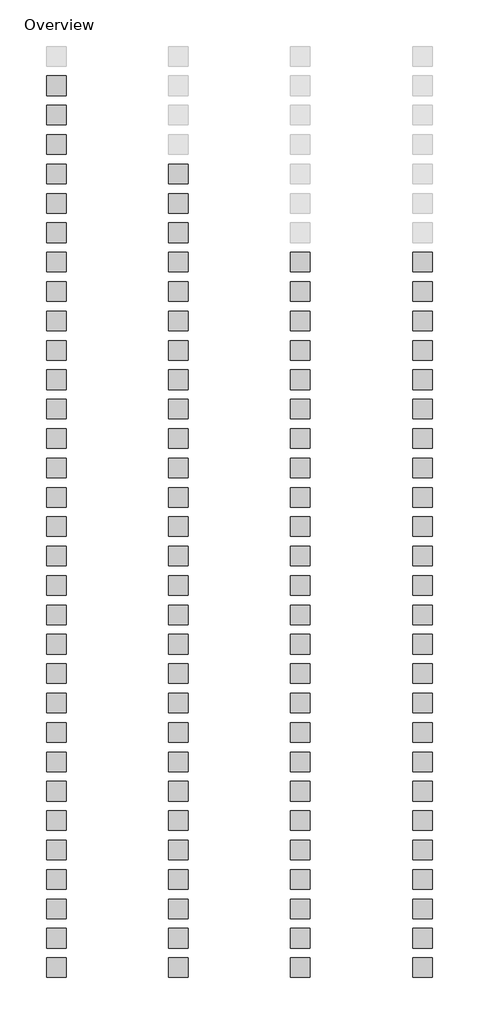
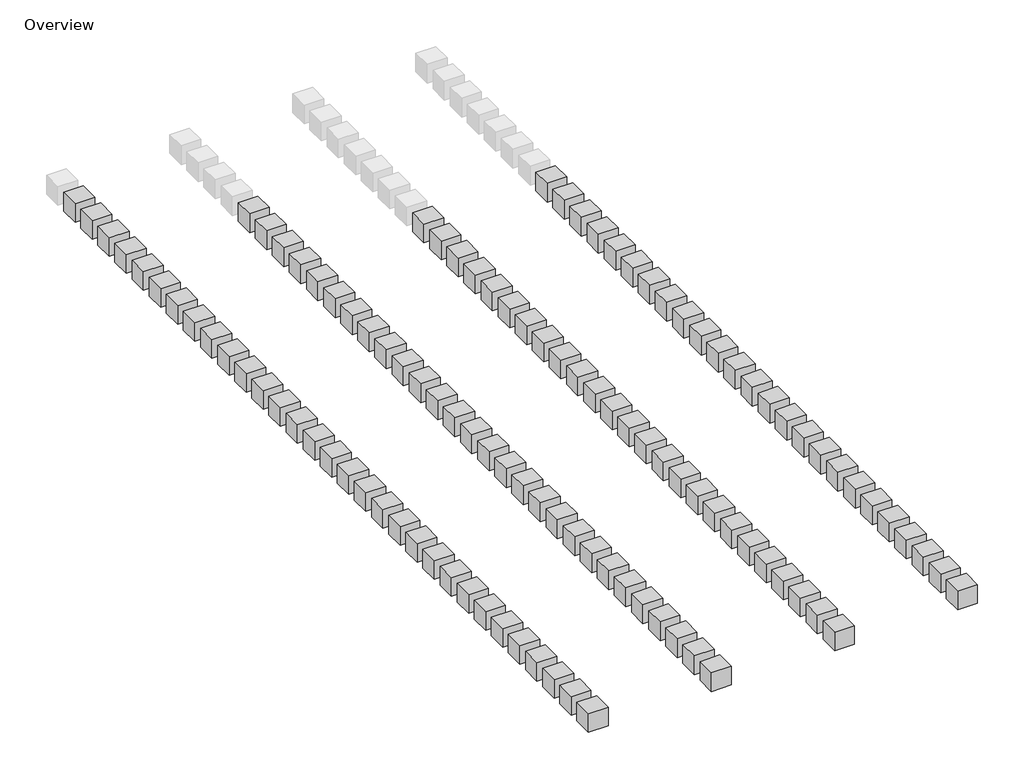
# One storey, part 1 of 5: 109 proxies.
"""IFC4 building model written with IfcOpenShell, lengths in millimetres."""

from ifc_helpers import new_model, si_unit, origin, place, context, project, spatial, transform, mapped, element, save
from components import material_box_material_box_61bd0c43

model = new_model("IFC4")

# Units and contexts
model_context = context("Model", 3, world=origin())
ifc_project = project(units=[si_unit("LENGTHUNIT", "METRE", prefix="MILLI")], contexts=[model_context])

# Site, building, storey
site = spatial("IfcSite", under=ifc_project)
building = spatial("IfcBuilding", under=site)
storey = spatial("IfcBuildingStorey", under=building, Name="Overview", Elevation=0.0)

# Proxies
placement = place(None, origin())
material_box_material_box_shape = material_box_material_box_61bd0c43(model_context)
element("IfcBuildingElementProxy", 1, Name="Material Box : Material Box", ObjectType="Material Box : Material Box", at=placement, inside=storey, context=model_context, shape_type="MappedRepresentation", body=[
    mapped(material_box_material_box_shape, transform((-14601.1030029, -41343.0736223, 0.0), x_axis=(1.0, 0.0, 0.0), y_axis=(0.0, 1.0, 0.0), z_axis=(0.0, 0.0, 1.0))),
])
element("IfcBuildingElementProxy", 2, Name="Material Box : Material Box", ObjectType="Material Box : Material Box", at=placement, inside=storey, context=model_context, shape_type="MappedRepresentation", body=[
    mapped(material_box_material_box_shape, transform((-14601.1030029, -42486.0736223, 0.0), x_axis=(1.0, 0.0, 0.0), y_axis=(0.0, 1.0, 0.0), z_axis=(0.0, 0.0, 1.0))),
])
element("IfcBuildingElementProxy", 3, Name="Material Box : Material Box", ObjectType="Material Box : Material Box", at=placement, inside=storey, context=model_context, shape_type="MappedRepresentation", body=[
    mapped(material_box_material_box_shape, transform((-14601.1030029, -43629.0736223, 0.0), x_axis=(1.0, 0.0, 0.0), y_axis=(0.0, 1.0, 0.0), z_axis=(0.0, 0.0, 1.0))),
])
element("IfcBuildingElementProxy", 4, Name="Material Box : Material Box", ObjectType="Material Box : Material Box", at=placement, inside=storey, context=model_context, shape_type="MappedRepresentation", body=[
    mapped(material_box_material_box_shape, transform((-14601.1030029, -44772.0736223, 0.0), x_axis=(1.0, 0.0, 0.0), y_axis=(0.0, 1.0, 0.0), z_axis=(0.0, 0.0, 1.0))),
])
element("IfcBuildingElementProxy", 5, Name="Material Box : Material Box", ObjectType="Material Box : Material Box", at=placement, inside=storey, context=model_context, shape_type="MappedRepresentation", body=[
    mapped(material_box_material_box_shape, transform((-9851.3030029, -44772.0736223, 0.0), x_axis=(1.0, 0.0, 0.0), y_axis=(0.0, 1.0, 0.0), z_axis=(0.0, 0.0, 1.0))),
])
element("IfcBuildingElementProxy", 6, Name="Material Box : Material Box", ObjectType="Material Box : Material Box", at=placement, inside=storey, context=model_context, shape_type="MappedRepresentation", body=[
    mapped(material_box_material_box_shape, transform((-14601.1030029, -45915.0736223, 0.0), x_axis=(1.0, 0.0, 0.0), y_axis=(0.0, 1.0, 0.0), z_axis=(0.0, 0.0, 1.0))),
])
element("IfcBuildingElementProxy", 7, Name="Material Box : Material Box", ObjectType="Material Box : Material Box", at=placement, inside=storey, context=model_context, shape_type="MappedRepresentation", body=[
    mapped(material_box_material_box_shape, transform((-9851.3030029, -45915.0736223, 0.0), x_axis=(1.0, 0.0, 0.0), y_axis=(0.0, 1.0, 0.0), z_axis=(0.0, 0.0, 1.0))),
])
element("IfcBuildingElementProxy", 8, Name="Material Box : Material Box", ObjectType="Material Box : Material Box", at=placement, inside=storey, context=model_context, shape_type="MappedRepresentation", body=[
    mapped(material_box_material_box_shape, transform((-14601.1030029, -47058.0736223, 0.0), x_axis=(1.0, 0.0, 0.0), y_axis=(0.0, 1.0, 0.0), z_axis=(0.0, 0.0, 1.0))),
])
element("IfcBuildingElementProxy", 9, Name="Material Box : Material Box", ObjectType="Material Box : Material Box", at=placement, inside=storey, context=model_context, shape_type="MappedRepresentation", body=[
    mapped(material_box_material_box_shape, transform((-9851.3030029, -47058.0736223, 0.0), x_axis=(1.0, 0.0, 0.0), y_axis=(0.0, 1.0, 0.0), z_axis=(0.0, 0.0, 1.0))),
])
element("IfcBuildingElementProxy", 10, Name="Material Box : Material Box", ObjectType="Material Box : Material Box", at=placement, inside=storey, context=model_context, shape_type="MappedRepresentation", body=[
    mapped(material_box_material_box_shape, transform((-14601.1030029, -48201.0736223, 0.0), x_axis=(1.0, 0.0, 0.0), y_axis=(0.0, 1.0, 0.0), z_axis=(0.0, 0.0, 1.0))),
])
element("IfcBuildingElementProxy", 11, Name="Material Box : Material Box", ObjectType="Material Box : Material Box", at=placement, inside=storey, context=model_context, shape_type="MappedRepresentation", body=[
    mapped(material_box_material_box_shape, transform((-9851.3030029, -48201.0736223, 0.0), x_axis=(1.0, 0.0, 0.0), y_axis=(0.0, 1.0, 0.0), z_axis=(0.0, 0.0, 1.0))),
])
element("IfcBuildingElementProxy", 12, Name="Material Box : Material Box", ObjectType="Material Box : Material Box", at=placement, inside=storey, context=model_context, shape_type="MappedRepresentation", body=[
    mapped(material_box_material_box_shape, transform((-14601.1030029, -49344.0736223, 0.0), x_axis=(1.0, 0.0, 0.0), y_axis=(0.0, 1.0, 0.0), z_axis=(0.0, 0.0, 1.0))),
])
element("IfcBuildingElementProxy", 13, Name="Material Box : Material Box", ObjectType="Material Box : Material Box", at=placement, inside=storey, context=model_context, shape_type="MappedRepresentation", body=[
    mapped(material_box_material_box_shape, transform((-9851.3030029, -49344.0736223, 0.0), x_axis=(1.0, 0.0, 0.0), y_axis=(0.0, 1.0, 0.0), z_axis=(0.0, 0.0, 1.0))),
])
element("IfcBuildingElementProxy", 14, Name="Material Box : Material Box", ObjectType="Material Box : Material Box", at=placement, inside=storey, context=model_context, shape_type="MappedRepresentation", body=[
    mapped(material_box_material_box_shape, transform((-14601.1030029, -50487.0736223, 0.0), x_axis=(1.0, 0.0, 0.0), y_axis=(0.0, 1.0, 0.0), z_axis=(0.0, 0.0, 1.0))),
])
element("IfcBuildingElementProxy", 15, Name="Material Box : Material Box", ObjectType="Material Box : Material Box", at=placement, inside=storey, context=model_context, shape_type="MappedRepresentation", body=[
    mapped(material_box_material_box_shape, transform((-9851.3030029, -50487.0736223, 0.0), x_axis=(1.0, 0.0, 0.0), y_axis=(0.0, 1.0, 0.0), z_axis=(0.0, 0.0, 1.0))),
])
element("IfcBuildingElementProxy", 16, Name="Material Box : Material Box", ObjectType="Material Box : Material Box", at=placement, inside=storey, context=model_context, shape_type="MappedRepresentation", body=[
    mapped(material_box_material_box_shape, transform((-14601.1030029, -51630.0736223, 0.0), x_axis=(1.0, 0.0, 0.0), y_axis=(0.0, 1.0, 0.0), z_axis=(0.0, 0.0, 1.0))),
])
element("IfcBuildingElementProxy", 17, Name="Material Box : Material Box", ObjectType="Material Box : Material Box", at=placement, inside=storey, context=model_context, shape_type="MappedRepresentation", body=[
    mapped(material_box_material_box_shape, transform((-9851.3030029, -51630.0736223, 0.0), x_axis=(1.0, 0.0, 0.0), y_axis=(0.0, 1.0, 0.0), z_axis=(0.0, 0.0, 1.0))),
])
element("IfcBuildingElementProxy", 18, Name="Material Box : Material Box", ObjectType="Material Box : Material Box", at=placement, inside=storey, context=model_context, shape_type="MappedRepresentation", body=[
    mapped(material_box_material_box_shape, transform((-14601.1030029, -52773.0736223, 0.0), x_axis=(1.0, 0.0, 0.0), y_axis=(0.0, 1.0, 0.0), z_axis=(0.0, 0.0, 1.0))),
])
element("IfcBuildingElementProxy", 19, Name="Material Box : Material Box", ObjectType="Material Box : Material Box", at=placement, inside=storey, context=model_context, shape_type="MappedRepresentation", body=[
    mapped(material_box_material_box_shape, transform((-9851.3030029, -52773.0736223, 0.0), x_axis=(1.0, 0.0, 0.0), y_axis=(0.0, 1.0, 0.0), z_axis=(0.0, 0.0, 1.0))),
])
element("IfcBuildingElementProxy", 20, Name="Material Box : Material Box", ObjectType="Material Box : Material Box", at=placement, inside=storey, context=model_context, shape_type="MappedRepresentation", body=[
    mapped(material_box_material_box_shape, transform((-14601.1030029, -53916.0736223, 0.0), x_axis=(1.0, 0.0, 0.0), y_axis=(0.0, 1.0, 0.0), z_axis=(0.0, 0.0, 1.0))),
])
element("IfcBuildingElementProxy", 21, Name="Material Box : Material Box", ObjectType="Material Box : Material Box", at=placement, inside=storey, context=model_context, shape_type="MappedRepresentation", body=[
    mapped(material_box_material_box_shape, transform((-9851.3030029, -53916.0736223, 0.0), x_axis=(1.0, 0.0, 0.0), y_axis=(0.0, 1.0, 0.0), z_axis=(0.0, 0.0, 1.0))),
])
element("IfcBuildingElementProxy", 22, Name="Material Box : Material Box", ObjectType="Material Box : Material Box", at=placement, inside=storey, context=model_context, shape_type="MappedRepresentation", body=[
    mapped(material_box_material_box_shape, transform((-14601.1030029, -55059.0736223, 0.0), x_axis=(1.0, 0.0, 0.0), y_axis=(0.0, 1.0, 0.0), z_axis=(0.0, 0.0, 1.0))),
])
element("IfcBuildingElementProxy", 23, Name="Material Box : Material Box", ObjectType="Material Box : Material Box", at=placement, inside=storey, context=model_context, shape_type="MappedRepresentation", body=[
    mapped(material_box_material_box_shape, transform((-9851.3030029, -55059.0736223, 0.0), x_axis=(1.0, 0.0, 0.0), y_axis=(0.0, 1.0, 0.0), z_axis=(0.0, 0.0, 1.0))),
])
element("IfcBuildingElementProxy", 24, Name="Material Box : Material Box", ObjectType="Material Box : Material Box", at=placement, inside=storey, context=model_context, shape_type="MappedRepresentation", body=[
    mapped(material_box_material_box_shape, transform((-14601.1030029, -56202.0736223, 0.0), x_axis=(1.0, 0.0, 0.0), y_axis=(0.0, 1.0, 0.0), z_axis=(0.0, 0.0, 1.0))),
])
element("IfcBuildingElementProxy", 25, Name="Material Box : Material Box", ObjectType="Material Box : Material Box", at=placement, inside=storey, context=model_context, shape_type="MappedRepresentation", body=[
    mapped(material_box_material_box_shape, transform((-9851.3030029, -56202.0736223, 0.0), x_axis=(1.0, 0.0, 0.0), y_axis=(0.0, 1.0, 0.0), z_axis=(0.0, 0.0, 1.0))),
])
element("IfcBuildingElementProxy", 26, Name="Material Box : Material Box", ObjectType="Material Box : Material Box", at=placement, inside=storey, context=model_context, shape_type="MappedRepresentation", body=[
    mapped(material_box_material_box_shape, transform((-14601.1030029, -57345.0736223, 0.0), x_axis=(1.0, 0.0, 0.0), y_axis=(0.0, 1.0, 0.0), z_axis=(0.0, 0.0, 1.0))),
])
element("IfcBuildingElementProxy", 27, Name="Material Box : Material Box", ObjectType="Material Box : Material Box", at=placement, inside=storey, context=model_context, shape_type="MappedRepresentation", body=[
    mapped(material_box_material_box_shape, transform((-9851.3030029, -57345.0736223, 0.0), x_axis=(1.0, 0.0, 0.0), y_axis=(0.0, 1.0, 0.0), z_axis=(0.0, 0.0, 1.0))),
])
element("IfcBuildingElementProxy", 28, Name="Material Box : Material Box", ObjectType="Material Box : Material Box", at=placement, inside=storey, context=model_context, shape_type="MappedRepresentation", body=[
    mapped(material_box_material_box_shape, transform((-5101.5030029, -48201.0736223, 0.0), x_axis=(1.0, 0.0, 0.0), y_axis=(0.0, 1.0, 0.0), z_axis=(0.0, 0.0, 1.0))),
])
element("IfcBuildingElementProxy", 29, Name="Material Box : Material Box", ObjectType="Material Box : Material Box", at=placement, inside=storey, context=model_context, shape_type="MappedRepresentation", body=[
    mapped(material_box_material_box_shape, transform((-351.7030029, -48201.0736223, 0.0), x_axis=(1.0, 0.0, 0.0), y_axis=(0.0, 1.0, 0.0), z_axis=(0.0, 0.0, 1.0))),
])
element("IfcBuildingElementProxy", 30, Name="Material Box : Material Box", ObjectType="Material Box : Material Box", at=placement, inside=storey, context=model_context, shape_type="MappedRepresentation", body=[
    mapped(material_box_material_box_shape, transform((-5101.5030029, -49344.0736223, 0.0), x_axis=(1.0, 0.0, 0.0), y_axis=(0.0, 1.0, 0.0), z_axis=(0.0, 0.0, 1.0))),
])
element("IfcBuildingElementProxy", 31, Name="Material Box : Material Box", ObjectType="Material Box : Material Box", at=placement, inside=storey, context=model_context, shape_type="MappedRepresentation", body=[
    mapped(material_box_material_box_shape, transform((-351.7030029, -49344.0736223, 0.0), x_axis=(1.0, 0.0, 0.0), y_axis=(0.0, 1.0, 0.0), z_axis=(0.0, 0.0, 1.0))),
])
element("IfcBuildingElementProxy", 32, Name="Material Box : Material Box", ObjectType="Material Box : Material Box", at=placement, inside=storey, context=model_context, shape_type="MappedRepresentation", body=[
    mapped(material_box_material_box_shape, transform((-5101.5030029, -50487.0736223, 0.0), x_axis=(1.0, 0.0, 0.0), y_axis=(0.0, 1.0, 0.0), z_axis=(0.0, 0.0, 1.0))),
])
element("IfcBuildingElementProxy", 33, Name="Material Box : Material Box", ObjectType="Material Box : Material Box", at=placement, inside=storey, context=model_context, shape_type="MappedRepresentation", body=[
    mapped(material_box_material_box_shape, transform((-351.7030029, -50487.0736223, 0.0), x_axis=(1.0, 0.0, 0.0), y_axis=(0.0, 1.0, 0.0), z_axis=(0.0, 0.0, 1.0))),
])
element("IfcBuildingElementProxy", 34, Name="Material Box : Material Box", ObjectType="Material Box : Material Box", at=placement, inside=storey, context=model_context, shape_type="MappedRepresentation", body=[
    mapped(material_box_material_box_shape, transform((-5101.5030029, -51630.0736223, 0.0), x_axis=(1.0, 0.0, 0.0), y_axis=(0.0, 1.0, 0.0), z_axis=(0.0, 0.0, 1.0))),
])
element("IfcBuildingElementProxy", 35, Name="Material Box : Material Box", ObjectType="Material Box : Material Box", at=placement, inside=storey, context=model_context, shape_type="MappedRepresentation", body=[
    mapped(material_box_material_box_shape, transform((-351.7030029, -51630.0736223, 0.0), x_axis=(1.0, 0.0, 0.0), y_axis=(0.0, 1.0, 0.0), z_axis=(0.0, 0.0, 1.0))),
])
element("IfcBuildingElementProxy", 36, Name="Material Box : Material Box", ObjectType="Material Box : Material Box", at=placement, inside=storey, context=model_context, shape_type="MappedRepresentation", body=[
    mapped(material_box_material_box_shape, transform((-5101.5030029, -52773.0736223, 0.0), x_axis=(1.0, 0.0, 0.0), y_axis=(0.0, 1.0, 0.0), z_axis=(0.0, 0.0, 1.0))),
])
element("IfcBuildingElementProxy", 37, Name="Material Box : Material Box", ObjectType="Material Box : Material Box", at=placement, inside=storey, context=model_context, shape_type="MappedRepresentation", body=[
    mapped(material_box_material_box_shape, transform((-351.7030029, -52773.0736223, 0.0), x_axis=(1.0, 0.0, 0.0), y_axis=(0.0, 1.0, 0.0), z_axis=(0.0, 0.0, 1.0))),
])
element("IfcBuildingElementProxy", 38, Name="Material Box : Material Box", ObjectType="Material Box : Material Box", at=placement, inside=storey, context=model_context, shape_type="MappedRepresentation", body=[
    mapped(material_box_material_box_shape, transform((-5101.5030029, -53916.0736223, 0.0), x_axis=(1.0, 0.0, 0.0), y_axis=(0.0, 1.0, 0.0), z_axis=(0.0, 0.0, 1.0))),
])
element("IfcBuildingElementProxy", 39, Name="Material Box : Material Box", ObjectType="Material Box : Material Box", at=placement, inside=storey, context=model_context, shape_type="MappedRepresentation", body=[
    mapped(material_box_material_box_shape, transform((-351.7030029, -53916.0736223, 0.0), x_axis=(1.0, 0.0, 0.0), y_axis=(0.0, 1.0, 0.0), z_axis=(0.0, 0.0, 1.0))),
])
element("IfcBuildingElementProxy", 40, Name="Material Box : Material Box", ObjectType="Material Box : Material Box", at=placement, inside=storey, context=model_context, shape_type="MappedRepresentation", body=[
    mapped(material_box_material_box_shape, transform((-5101.5030029, -55059.0736223, 0.0), x_axis=(1.0, 0.0, 0.0), y_axis=(0.0, 1.0, 0.0), z_axis=(0.0, 0.0, 1.0))),
])
element("IfcBuildingElementProxy", 41, Name="Material Box : Material Box", ObjectType="Material Box : Material Box", at=placement, inside=storey, context=model_context, shape_type="MappedRepresentation", body=[
    mapped(material_box_material_box_shape, transform((-351.7030029, -55059.0736223, 0.0), x_axis=(1.0, 0.0, 0.0), y_axis=(0.0, 1.0, 0.0), z_axis=(0.0, 0.0, 1.0))),
])
element("IfcBuildingElementProxy", 42, Name="Material Box : Material Box", ObjectType="Material Box : Material Box", at=placement, inside=storey, context=model_context, shape_type="MappedRepresentation", body=[
    mapped(material_box_material_box_shape, transform((-5101.5030029, -56202.0736223, 0.0), x_axis=(1.0, 0.0, 0.0), y_axis=(0.0, 1.0, 0.0), z_axis=(0.0, 0.0, 1.0))),
])
element("IfcBuildingElementProxy", 43, Name="Material Box : Material Box", ObjectType="Material Box : Material Box", at=placement, inside=storey, context=model_context, shape_type="MappedRepresentation", body=[
    mapped(material_box_material_box_shape, transform((-351.7030029, -56202.0736223, 0.0), x_axis=(1.0, 0.0, 0.0), y_axis=(0.0, 1.0, 0.0), z_axis=(0.0, 0.0, 1.0))),
])
element("IfcBuildingElementProxy", 44, Name="Material Box : Material Box", ObjectType="Material Box : Material Box", at=placement, inside=storey, context=model_context, shape_type="MappedRepresentation", body=[
    mapped(material_box_material_box_shape, transform((-5101.5030029, -57345.0736223, 0.0), x_axis=(1.0, 0.0, 0.0), y_axis=(0.0, 1.0, 0.0), z_axis=(0.0, 0.0, 1.0))),
])
element("IfcBuildingElementProxy", 45, Name="Material Box : Material Box", ObjectType="Material Box : Material Box", at=placement, inside=storey, context=model_context, shape_type="MappedRepresentation", body=[
    mapped(material_box_material_box_shape, transform((-351.7030029, -57345.0736223, 0.0), x_axis=(1.0, 0.0, 0.0), y_axis=(0.0, 1.0, 0.0), z_axis=(0.0, 0.0, 1.0))),
])
element("IfcBuildingElementProxy", 46, Name="Material Box : Material Box", ObjectType="Material Box : Material Box", at=placement, inside=storey, context=model_context, shape_type="MappedRepresentation", body=[
    mapped(material_box_material_box_shape, transform((-14601.1030029, -58488.0736223, 0.0), x_axis=(1.0, 0.0, 0.0), y_axis=(0.0, 1.0, 0.0), z_axis=(0.0, 0.0, 1.0))),
])
element("IfcBuildingElementProxy", 47, Name="Material Box : Material Box", ObjectType="Material Box : Material Box", at=placement, inside=storey, context=model_context, shape_type="MappedRepresentation", body=[
    mapped(material_box_material_box_shape, transform((-14601.1030029, -59631.0736223, 0.0), x_axis=(1.0, 0.0, 0.0), y_axis=(0.0, 1.0, 0.0), z_axis=(0.0, 0.0, 1.0))),
])
element("IfcBuildingElementProxy", 48, Name="Material Box : Material Box", ObjectType="Material Box : Material Box", at=placement, inside=storey, context=model_context, shape_type="MappedRepresentation", body=[
    mapped(material_box_material_box_shape, transform((-14601.1030029, -60774.0736223, 0.0), x_axis=(1.0, 0.0, 0.0), y_axis=(0.0, 1.0, 0.0), z_axis=(0.0, 0.0, 1.0))),
])
element("IfcBuildingElementProxy", 49, Name="Material Box : Material Box", ObjectType="Material Box : Material Box", at=placement, inside=storey, context=model_context, shape_type="MappedRepresentation", body=[
    mapped(material_box_material_box_shape, transform((-14601.1030029, -61917.0736223, 0.0), x_axis=(1.0, 0.0, 0.0), y_axis=(0.0, 1.0, 0.0), z_axis=(0.0, 0.0, 1.0))),
])
element("IfcBuildingElementProxy", 50, Name="Material Box : Material Box", ObjectType="Material Box : Material Box", at=placement, inside=storey, context=model_context, shape_type="MappedRepresentation", body=[
    mapped(material_box_material_box_shape, transform((-14601.1030029, -63060.0736223, 0.0), x_axis=(1.0, 0.0, 0.0), y_axis=(0.0, 1.0, 0.0), z_axis=(0.0, 0.0, 1.0))),
])
element("IfcBuildingElementProxy", 51, Name="Material Box : Material Box", ObjectType="Material Box : Material Box", at=placement, inside=storey, context=model_context, shape_type="MappedRepresentation", body=[
    mapped(material_box_material_box_shape, transform((-14601.1030029, -64203.0736223, 0.0), x_axis=(1.0, 0.0, 0.0), y_axis=(0.0, 1.0, 0.0), z_axis=(0.0, 0.0, 1.0))),
])
element("IfcBuildingElementProxy", 52, Name="Material Box : Material Box", ObjectType="Material Box : Material Box", at=placement, inside=storey, context=model_context, shape_type="MappedRepresentation", body=[
    mapped(material_box_material_box_shape, transform((-14601.1030029, -65346.0736223, 0.0), x_axis=(1.0, 0.0, 0.0), y_axis=(0.0, 1.0, 0.0), z_axis=(0.0, 0.0, 1.0))),
])
element("IfcBuildingElementProxy", 53, Name="Material Box : Material Box", ObjectType="Material Box : Material Box", at=placement, inside=storey, context=model_context, shape_type="MappedRepresentation", body=[
    mapped(material_box_material_box_shape, transform((-14601.1030029, -66489.0736223, 0.0), x_axis=(1.0, 0.0, 0.0), y_axis=(0.0, 1.0, 0.0), z_axis=(0.0, 0.0, 1.0))),
])
element("IfcBuildingElementProxy", 54, Name="Material Box : Material Box", ObjectType="Material Box : Material Box", at=placement, inside=storey, context=model_context, shape_type="MappedRepresentation", body=[
    mapped(material_box_material_box_shape, transform((-14601.1030029, -67632.0736223, 0.0), x_axis=(1.0, 0.0, 0.0), y_axis=(0.0, 1.0, 0.0), z_axis=(0.0, 0.0, 1.0))),
])
element("IfcBuildingElementProxy", 55, Name="Material Box : Material Box", ObjectType="Material Box : Material Box", at=placement, inside=storey, context=model_context, shape_type="MappedRepresentation", body=[
    mapped(material_box_material_box_shape, transform((-14601.1030029, -68775.0736223, 0.0), x_axis=(1.0, 0.0, 0.0), y_axis=(0.0, 1.0, 0.0), z_axis=(0.0, 0.0, 1.0))),
])
element("IfcBuildingElementProxy", 56, Name="Material Box : Material Box", ObjectType="Material Box : Material Box", at=placement, inside=storey, context=model_context, shape_type="MappedRepresentation", body=[
    mapped(material_box_material_box_shape, transform((-14601.1030029, -69918.0736223, 0.0), x_axis=(1.0, 0.0, 0.0), y_axis=(0.0, 1.0, 0.0), z_axis=(0.0, 0.0, 1.0))),
])
element("IfcBuildingElementProxy", 57, Name="Material Box : Material Box", ObjectType="Material Box : Material Box", at=placement, inside=storey, context=model_context, shape_type="MappedRepresentation", body=[
    mapped(material_box_material_box_shape, transform((-14601.1030029, -71061.0736223, 0.0), x_axis=(1.0, 0.0, 0.0), y_axis=(0.0, 1.0, 0.0), z_axis=(0.0, 0.0, 1.0))),
])
element("IfcBuildingElementProxy", 58, Name="Material Box : Material Box", ObjectType="Material Box : Material Box", at=placement, inside=storey, context=model_context, shape_type="MappedRepresentation", body=[
    mapped(material_box_material_box_shape, transform((-14601.1030029, -72204.0736223, 0.0), x_axis=(1.0, 0.0, 0.0), y_axis=(0.0, 1.0, 0.0), z_axis=(0.0, 0.0, 1.0))),
])
element("IfcBuildingElementProxy", 59, Name="Material Box : Material Box", ObjectType="Material Box : Material Box", at=placement, inside=storey, context=model_context, shape_type="MappedRepresentation", body=[
    mapped(material_box_material_box_shape, transform((-14601.1030029, -73347.0736223, 0.0), x_axis=(1.0, 0.0, 0.0), y_axis=(0.0, 1.0, 0.0), z_axis=(0.0, 0.0, 1.0))),
])
element("IfcBuildingElementProxy", 60, Name="Material Box : Material Box", ObjectType="Material Box : Material Box", at=placement, inside=storey, context=model_context, shape_type="MappedRepresentation", body=[
    mapped(material_box_material_box_shape, transform((-14601.1030029, -74490.0736223, 0.0), x_axis=(1.0, 0.0, 0.0), y_axis=(0.0, 1.0, 0.0), z_axis=(0.0, 0.0, 1.0))),
])
element("IfcBuildingElementProxy", 61, Name="Material Box : Material Box", ObjectType="Material Box : Material Box", at=placement, inside=storey, context=model_context, shape_type="MappedRepresentation", body=[
    mapped(material_box_material_box_shape, transform((-14601.1030029, -75633.0736223, 0.0), x_axis=(1.0, 0.0, 0.0), y_axis=(0.0, 1.0, 0.0), z_axis=(0.0, 0.0, 1.0))),
])
element("IfcBuildingElementProxy", 62, Name="Material Box : Material Box", ObjectType="Material Box : Material Box", at=placement, inside=storey, context=model_context, shape_type="MappedRepresentation", body=[
    mapped(material_box_material_box_shape, transform((-9851.3030029, -58488.0736223, 0.0), x_axis=(1.0, 0.0, 0.0), y_axis=(0.0, 1.0, 0.0), z_axis=(0.0, 0.0, 1.0))),
])
element("IfcBuildingElementProxy", 63, Name="Material Box : Material Box", ObjectType="Material Box : Material Box", at=placement, inside=storey, context=model_context, shape_type="MappedRepresentation", body=[
    mapped(material_box_material_box_shape, transform((-5101.5030029, -58488.0736223, 0.0), x_axis=(1.0, 0.0, 0.0), y_axis=(0.0, 1.0, 0.0), z_axis=(0.0, 0.0, 1.0))),
])
element("IfcBuildingElementProxy", 64, Name="Material Box : Material Box", ObjectType="Material Box : Material Box", at=placement, inside=storey, context=model_context, shape_type="MappedRepresentation", body=[
    mapped(material_box_material_box_shape, transform((-9851.3030029, -59631.0736223, 0.0), x_axis=(1.0, 0.0, 0.0), y_axis=(0.0, 1.0, 0.0), z_axis=(0.0, 0.0, 1.0))),
])
element("IfcBuildingElementProxy", 65, Name="Material Box : Material Box", ObjectType="Material Box : Material Box", at=placement, inside=storey, context=model_context, shape_type="MappedRepresentation", body=[
    mapped(material_box_material_box_shape, transform((-5101.5030029, -59631.0736223, 0.0), x_axis=(1.0, 0.0, 0.0), y_axis=(0.0, 1.0, 0.0), z_axis=(0.0, 0.0, 1.0))),
])
element("IfcBuildingElementProxy", 66, Name="Material Box : Material Box", ObjectType="Material Box : Material Box", at=placement, inside=storey, context=model_context, shape_type="MappedRepresentation", body=[
    mapped(material_box_material_box_shape, transform((-9851.3030029, -60774.0736223, 0.0), x_axis=(1.0, 0.0, 0.0), y_axis=(0.0, 1.0, 0.0), z_axis=(0.0, 0.0, 1.0))),
])
element("IfcBuildingElementProxy", 67, Name="Material Box : Material Box", ObjectType="Material Box : Material Box", at=placement, inside=storey, context=model_context, shape_type="MappedRepresentation", body=[
    mapped(material_box_material_box_shape, transform((-5101.5030029, -60774.0736223, 0.0), x_axis=(1.0, 0.0, 0.0), y_axis=(0.0, 1.0, 0.0), z_axis=(0.0, 0.0, 1.0))),
])
element("IfcBuildingElementProxy", 68, Name="Material Box : Material Box", ObjectType="Material Box : Material Box", at=placement, inside=storey, context=model_context, shape_type="MappedRepresentation", body=[
    mapped(material_box_material_box_shape, transform((-9851.3030029, -61917.0736223, 0.0), x_axis=(1.0, 0.0, 0.0), y_axis=(0.0, 1.0, 0.0), z_axis=(0.0, 0.0, 1.0))),
])
element("IfcBuildingElementProxy", 69, Name="Material Box : Material Box", ObjectType="Material Box : Material Box", at=placement, inside=storey, context=model_context, shape_type="MappedRepresentation", body=[
    mapped(material_box_material_box_shape, transform((-5101.5030029, -61917.0736223, 0.0), x_axis=(1.0, 0.0, 0.0), y_axis=(0.0, 1.0, 0.0), z_axis=(0.0, 0.0, 1.0))),
])
element("IfcBuildingElementProxy", 70, Name="Material Box : Material Box", ObjectType="Material Box : Material Box", at=placement, inside=storey, context=model_context, shape_type="MappedRepresentation", body=[
    mapped(material_box_material_box_shape, transform((-9851.3030029, -63060.0736223, 0.0), x_axis=(1.0, 0.0, 0.0), y_axis=(0.0, 1.0, 0.0), z_axis=(0.0, 0.0, 1.0))),
])
element("IfcBuildingElementProxy", 71, Name="Material Box : Material Box", ObjectType="Material Box : Material Box", at=placement, inside=storey, context=model_context, shape_type="MappedRepresentation", body=[
    mapped(material_box_material_box_shape, transform((-5101.5030029, -63060.0736223, 0.0), x_axis=(1.0, 0.0, 0.0), y_axis=(0.0, 1.0, 0.0), z_axis=(0.0, 0.0, 1.0))),
])
element("IfcBuildingElementProxy", 72, Name="Material Box : Material Box", ObjectType="Material Box : Material Box", at=placement, inside=storey, context=model_context, shape_type="MappedRepresentation", body=[
    mapped(material_box_material_box_shape, transform((-9851.3030029, -64203.0736223, 0.0), x_axis=(1.0, 0.0, 0.0), y_axis=(0.0, 1.0, 0.0), z_axis=(0.0, 0.0, 1.0))),
])
element("IfcBuildingElementProxy", 73, Name="Material Box : Material Box", ObjectType="Material Box : Material Box", at=placement, inside=storey, context=model_context, shape_type="MappedRepresentation", body=[
    mapped(material_box_material_box_shape, transform((-5101.5030029, -64203.0736223, 0.0), x_axis=(1.0, 0.0, 0.0), y_axis=(0.0, 1.0, 0.0), z_axis=(0.0, 0.0, 1.0))),
])
element("IfcBuildingElementProxy", 74, Name="Material Box : Material Box", ObjectType="Material Box : Material Box", at=placement, inside=storey, context=model_context, shape_type="MappedRepresentation", body=[
    mapped(material_box_material_box_shape, transform((-9851.3030029, -65346.0736223, 0.0), x_axis=(1.0, 0.0, 0.0), y_axis=(0.0, 1.0, 0.0), z_axis=(0.0, 0.0, 1.0))),
])
element("IfcBuildingElementProxy", 75, Name="Material Box : Material Box", ObjectType="Material Box : Material Box", at=placement, inside=storey, context=model_context, shape_type="MappedRepresentation", body=[
    mapped(material_box_material_box_shape, transform((-5101.5030029, -65346.0736223, 0.0), x_axis=(1.0, 0.0, 0.0), y_axis=(0.0, 1.0, 0.0), z_axis=(0.0, 0.0, 1.0))),
])
element("IfcBuildingElementProxy", 76, Name="Material Box : Material Box", ObjectType="Material Box : Material Box", at=placement, inside=storey, context=model_context, shape_type="MappedRepresentation", body=[
    mapped(material_box_material_box_shape, transform((-9851.3030029, -66489.0736223, 0.0), x_axis=(1.0, 0.0, 0.0), y_axis=(0.0, 1.0, 0.0), z_axis=(0.0, 0.0, 1.0))),
])
element("IfcBuildingElementProxy", 77, Name="Material Box : Material Box", ObjectType="Material Box : Material Box", at=placement, inside=storey, context=model_context, shape_type="MappedRepresentation", body=[
    mapped(material_box_material_box_shape, transform((-5101.5030029, -66489.0736223, 0.0), x_axis=(1.0, 0.0, 0.0), y_axis=(0.0, 1.0, 0.0), z_axis=(0.0, 0.0, 1.0))),
])
element("IfcBuildingElementProxy", 78, Name="Material Box : Material Box", ObjectType="Material Box : Material Box", at=placement, inside=storey, context=model_context, shape_type="MappedRepresentation", body=[
    mapped(material_box_material_box_shape, transform((-9851.3030029, -67632.0736223, 0.0), x_axis=(1.0, 0.0, 0.0), y_axis=(0.0, 1.0, 0.0), z_axis=(0.0, 0.0, 1.0))),
])
element("IfcBuildingElementProxy", 79, Name="Material Box : Material Box", ObjectType="Material Box : Material Box", at=placement, inside=storey, context=model_context, shape_type="MappedRepresentation", body=[
    mapped(material_box_material_box_shape, transform((-5101.5030029, -67632.0736223, 0.0), x_axis=(1.0, 0.0, 0.0), y_axis=(0.0, 1.0, 0.0), z_axis=(0.0, 0.0, 1.0))),
])
element("IfcBuildingElementProxy", 80, Name="Material Box : Material Box", ObjectType="Material Box : Material Box", at=placement, inside=storey, context=model_context, shape_type="MappedRepresentation", body=[
    mapped(material_box_material_box_shape, transform((-9851.3030029, -68775.0736223, 0.0), x_axis=(1.0, 0.0, 0.0), y_axis=(0.0, 1.0, 0.0), z_axis=(0.0, 0.0, 1.0))),
])
element("IfcBuildingElementProxy", 81, Name="Material Box : Material Box", ObjectType="Material Box : Material Box", at=placement, inside=storey, context=model_context, shape_type="MappedRepresentation", body=[
    mapped(material_box_material_box_shape, transform((-5101.5030029, -68775.0736223, 0.0), x_axis=(1.0, 0.0, 0.0), y_axis=(0.0, 1.0, 0.0), z_axis=(0.0, 0.0, 1.0))),
])
element("IfcBuildingElementProxy", 82, Name="Material Box : Material Box", ObjectType="Material Box : Material Box", at=placement, inside=storey, context=model_context, shape_type="MappedRepresentation", body=[
    mapped(material_box_material_box_shape, transform((-9851.3030029, -69918.0736223, 0.0), x_axis=(1.0, 0.0, 0.0), y_axis=(0.0, 1.0, 0.0), z_axis=(0.0, 0.0, 1.0))),
])
element("IfcBuildingElementProxy", 83, Name="Material Box : Material Box", ObjectType="Material Box : Material Box", at=placement, inside=storey, context=model_context, shape_type="MappedRepresentation", body=[
    mapped(material_box_material_box_shape, transform((-5101.5030029, -69918.0736223, 0.0), x_axis=(1.0, 0.0, 0.0), y_axis=(0.0, 1.0, 0.0), z_axis=(0.0, 0.0, 1.0))),
])
element("IfcBuildingElementProxy", 84, Name="Material Box : Material Box", ObjectType="Material Box : Material Box", at=placement, inside=storey, context=model_context, shape_type="MappedRepresentation", body=[
    mapped(material_box_material_box_shape, transform((-9851.3030029, -71061.0736223, 0.0), x_axis=(1.0, 0.0, 0.0), y_axis=(0.0, 1.0, 0.0), z_axis=(0.0, 0.0, 1.0))),
])
element("IfcBuildingElementProxy", 85, Name="Material Box : Material Box", ObjectType="Material Box : Material Box", at=placement, inside=storey, context=model_context, shape_type="MappedRepresentation", body=[
    mapped(material_box_material_box_shape, transform((-5101.5030029, -71061.0736223, 0.0), x_axis=(1.0, 0.0, 0.0), y_axis=(0.0, 1.0, 0.0), z_axis=(0.0, 0.0, 1.0))),
])
element("IfcBuildingElementProxy", 86, Name="Material Box : Material Box", ObjectType="Material Box : Material Box", at=placement, inside=storey, context=model_context, shape_type="MappedRepresentation", body=[
    mapped(material_box_material_box_shape, transform((-9851.3030029, -72204.0736223, 0.0), x_axis=(1.0, 0.0, 0.0), y_axis=(0.0, 1.0, 0.0), z_axis=(0.0, 0.0, 1.0))),
])
element("IfcBuildingElementProxy", 87, Name="Material Box : Material Box", ObjectType="Material Box : Material Box", at=placement, inside=storey, context=model_context, shape_type="MappedRepresentation", body=[
    mapped(material_box_material_box_shape, transform((-5101.5030029, -72204.0736223, 0.0), x_axis=(1.0, 0.0, 0.0), y_axis=(0.0, 1.0, 0.0), z_axis=(0.0, 0.0, 1.0))),
])
element("IfcBuildingElementProxy", 88, Name="Material Box : Material Box", ObjectType="Material Box : Material Box", at=placement, inside=storey, context=model_context, shape_type="MappedRepresentation", body=[
    mapped(material_box_material_box_shape, transform((-9851.3030029, -73347.0736223, 0.0), x_axis=(1.0, 0.0, 0.0), y_axis=(0.0, 1.0, 0.0), z_axis=(0.0, 0.0, 1.0))),
])
element("IfcBuildingElementProxy", 89, Name="Material Box : Material Box", ObjectType="Material Box : Material Box", at=placement, inside=storey, context=model_context, shape_type="MappedRepresentation", body=[
    mapped(material_box_material_box_shape, transform((-5101.5030029, -73347.0736223, 0.0), x_axis=(1.0, 0.0, 0.0), y_axis=(0.0, 1.0, 0.0), z_axis=(0.0, 0.0, 1.0))),
])
element("IfcBuildingElementProxy", 90, Name="Material Box : Material Box", ObjectType="Material Box : Material Box", at=placement, inside=storey, context=model_context, shape_type="MappedRepresentation", body=[
    mapped(material_box_material_box_shape, transform((-9851.3030029, -74490.0736223, 0.0), x_axis=(1.0, 0.0, 0.0), y_axis=(0.0, 1.0, 0.0), z_axis=(0.0, 0.0, 1.0))),
])
element("IfcBuildingElementProxy", 91, Name="Material Box : Material Box", ObjectType="Material Box : Material Box", at=placement, inside=storey, context=model_context, shape_type="MappedRepresentation", body=[
    mapped(material_box_material_box_shape, transform((-5101.5030029, -74490.0736223, 0.0), x_axis=(1.0, 0.0, 0.0), y_axis=(0.0, 1.0, 0.0), z_axis=(0.0, 0.0, 1.0))),
])
element("IfcBuildingElementProxy", 92, Name="Material Box : Material Box", ObjectType="Material Box : Material Box", at=placement, inside=storey, context=model_context, shape_type="MappedRepresentation", body=[
    mapped(material_box_material_box_shape, transform((-9851.3030029, -75633.0736223, 0.0), x_axis=(1.0, 0.0, 0.0), y_axis=(0.0, 1.0, 0.0), z_axis=(0.0, 0.0, 1.0))),
])
element("IfcBuildingElementProxy", 93, Name="Material Box : Material Box", ObjectType="Material Box : Material Box", at=placement, inside=storey, context=model_context, shape_type="MappedRepresentation", body=[
    mapped(material_box_material_box_shape, transform((-5101.5030029, -75633.0736223, 0.0), x_axis=(1.0, 0.0, 0.0), y_axis=(0.0, 1.0, 0.0), z_axis=(0.0, 0.0, 1.0))),
])
element("IfcBuildingElementProxy", 94, Name="Material Box : Material Box", ObjectType="Material Box : Material Box", at=placement, inside=storey, context=model_context, shape_type="MappedRepresentation", body=[
    mapped(material_box_material_box_shape, transform((-351.7030029, -58488.0736223, 0.0), x_axis=(1.0, 0.0, 0.0), y_axis=(0.0, 1.0, 0.0), z_axis=(0.0, 0.0, 1.0))),
])
element("IfcBuildingElementProxy", 95, Name="Material Box : Material Box", ObjectType="Material Box : Material Box", at=placement, inside=storey, context=model_context, shape_type="MappedRepresentation", body=[
    mapped(material_box_material_box_shape, transform((-351.7030029, -59631.0736223, 0.0), x_axis=(1.0, 0.0, 0.0), y_axis=(0.0, 1.0, 0.0), z_axis=(0.0, 0.0, 1.0))),
])
element("IfcBuildingElementProxy", 96, Name="Material Box : Material Box", ObjectType="Material Box : Material Box", at=placement, inside=storey, context=model_context, shape_type="MappedRepresentation", body=[
    mapped(material_box_material_box_shape, transform((-351.7030029, -60774.0736223, 0.0), x_axis=(1.0, 0.0, 0.0), y_axis=(0.0, 1.0, 0.0), z_axis=(0.0, 0.0, 1.0))),
])
element("IfcBuildingElementProxy", 97, Name="Material Box : Material Box", ObjectType="Material Box : Material Box", at=placement, inside=storey, context=model_context, shape_type="MappedRepresentation", body=[
    mapped(material_box_material_box_shape, transform((-351.7030029, -61917.0736223, 0.0), x_axis=(1.0, 0.0, 0.0), y_axis=(0.0, 1.0, 0.0), z_axis=(0.0, 0.0, 1.0))),
])
element("IfcBuildingElementProxy", 98, Name="Material Box : Material Box", ObjectType="Material Box : Material Box", at=placement, inside=storey, context=model_context, shape_type="MappedRepresentation", body=[
    mapped(material_box_material_box_shape, transform((-351.7030029, -63060.0736223, 0.0), x_axis=(1.0, 0.0, 0.0), y_axis=(0.0, 1.0, 0.0), z_axis=(0.0, 0.0, 1.0))),
])
element("IfcBuildingElementProxy", 99, Name="Material Box : Material Box", ObjectType="Material Box : Material Box", at=placement, inside=storey, context=model_context, shape_type="MappedRepresentation", body=[
    mapped(material_box_material_box_shape, transform((-351.7030029, -64203.0736223, 0.0), x_axis=(1.0, 0.0, 0.0), y_axis=(0.0, 1.0, 0.0), z_axis=(0.0, 0.0, 1.0))),
])
element("IfcBuildingElementProxy", 100, Name="Material Box : Material Box", ObjectType="Material Box : Material Box", at=placement, inside=storey, context=model_context, shape_type="MappedRepresentation", body=[
    mapped(material_box_material_box_shape, transform((-351.7030029, -65346.0736223, 0.0), x_axis=(1.0, 0.0, 0.0), y_axis=(0.0, 1.0, 0.0), z_axis=(0.0, 0.0, 1.0))),
])
element("IfcBuildingElementProxy", 101, Name="Material Box : Material Box", ObjectType="Material Box : Material Box", at=placement, inside=storey, context=model_context, shape_type="MappedRepresentation", body=[
    mapped(material_box_material_box_shape, transform((-351.7030029, -66489.0736223, 0.0), x_axis=(1.0, 0.0, 0.0), y_axis=(0.0, 1.0, 0.0), z_axis=(0.0, 0.0, 1.0))),
])
element("IfcBuildingElementProxy", 102, Name="Material Box : Material Box", ObjectType="Material Box : Material Box", at=placement, inside=storey, context=model_context, shape_type="MappedRepresentation", body=[
    mapped(material_box_material_box_shape, transform((-351.7030029, -67632.0736223, 0.0), x_axis=(1.0, 0.0, 0.0), y_axis=(0.0, 1.0, 0.0), z_axis=(0.0, 0.0, 1.0))),
])
element("IfcBuildingElementProxy", 103, Name="Material Box : Material Box", ObjectType="Material Box : Material Box", at=placement, inside=storey, context=model_context, shape_type="MappedRepresentation", body=[
    mapped(material_box_material_box_shape, transform((-351.7030029, -68775.0736223, 0.0), x_axis=(1.0, 0.0, 0.0), y_axis=(0.0, 1.0, 0.0), z_axis=(0.0, 0.0, 1.0))),
])
element("IfcBuildingElementProxy", 104, Name="Material Box : Material Box", ObjectType="Material Box : Material Box", at=placement, inside=storey, context=model_context, shape_type="MappedRepresentation", body=[
    mapped(material_box_material_box_shape, transform((-351.7030029, -69918.0736223, 0.0), x_axis=(1.0, 0.0, 0.0), y_axis=(0.0, 1.0, 0.0), z_axis=(0.0, 0.0, 1.0))),
])
element("IfcBuildingElementProxy", 105, Name="Material Box : Material Box", ObjectType="Material Box : Material Box", at=placement, inside=storey, context=model_context, shape_type="MappedRepresentation", body=[
    mapped(material_box_material_box_shape, transform((-351.7030029, -71061.0736223, 0.0), x_axis=(1.0, 0.0, 0.0), y_axis=(0.0, 1.0, 0.0), z_axis=(0.0, 0.0, 1.0))),
])
element("IfcBuildingElementProxy", 106, Name="Material Box : Material Box", ObjectType="Material Box : Material Box", at=placement, inside=storey, context=model_context, shape_type="MappedRepresentation", body=[
    mapped(material_box_material_box_shape, transform((-351.7030029, -72204.0736223, 0.0), x_axis=(1.0, 0.0, 0.0), y_axis=(0.0, 1.0, 0.0), z_axis=(0.0, 0.0, 1.0))),
])
element("IfcBuildingElementProxy", 107, Name="Material Box : Material Box", ObjectType="Material Box : Material Box", at=placement, inside=storey, context=model_context, shape_type="MappedRepresentation", body=[
    mapped(material_box_material_box_shape, transform((-351.7030029, -73347.0736223, 0.0), x_axis=(1.0, 0.0, 0.0), y_axis=(0.0, 1.0, 0.0), z_axis=(0.0, 0.0, 1.0))),
])
element("IfcBuildingElementProxy", 108, Name="Material Box : Material Box", ObjectType="Material Box : Material Box", at=placement, inside=storey, context=model_context, shape_type="MappedRepresentation", body=[
    mapped(material_box_material_box_shape, transform((-351.7030029, -74490.0736223, 0.0), x_axis=(1.0, 0.0, 0.0), y_axis=(0.0, 1.0, 0.0), z_axis=(0.0, 0.0, 1.0))),
])
element("IfcBuildingElementProxy", 109, Name="Material Box : Material Box", ObjectType="Material Box : Material Box", at=placement, inside=storey, context=model_context, shape_type="MappedRepresentation", body=[
    mapped(material_box_material_box_shape, transform((-351.7030029, -75633.0736223, 0.0), x_axis=(1.0, 0.0, 0.0), y_axis=(0.0, 1.0, 0.0), z_axis=(0.0, 0.0, 1.0))),
])

save(model, "model.ifc")
